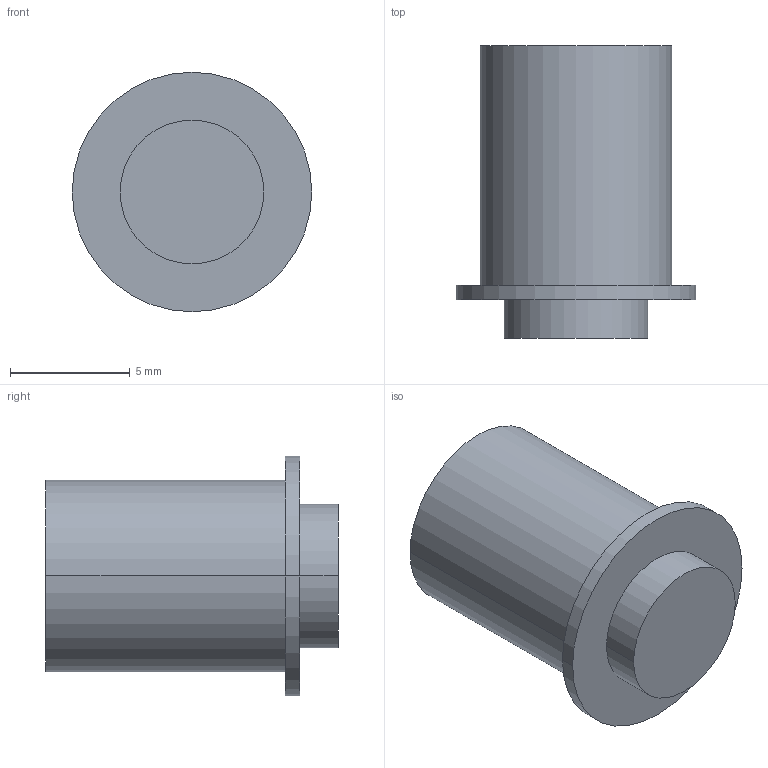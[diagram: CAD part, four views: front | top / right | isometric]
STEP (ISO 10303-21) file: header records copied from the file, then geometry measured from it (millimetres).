
FILE_DESCRIPTION (( 'STEP AP214' ), '1' );
FILE_NAME ('Frontpuffer_D8_gefedert 2,2mm.step', '2010-10-15T08:27:13', ( 'grass' ), ( '' ), 'SwSTEP 2.0', 'SolidWorks 2010', '' );
FILE_SCHEMA (( 'AUTOMOTIVE_DESIGN' ));
Length unit declared in the file: millimetre
Products named in the file (1): Frontpuffer_D8_gefedert 2,2mm
Bounding box: 10 x 12.2 x 10 mm (x, y, z)
Volume: 595 mm3; surface area: 457.4 mm2
Topology: 1 solids, 1 shells, 10 faces, 18 edges, 12 vertices
Faces by surface type: cylinder 6, plane 4
Entity records: 288 total; most frequent: DIRECTION 52, CARTESIAN_POINT 41, ORIENTED_EDGE 36, AXIS2_PLACEMENT_3D 23, EDGE_CURVE 18, VERTEX_POINT 12, EDGE_LOOP 12, CIRCLE 12
